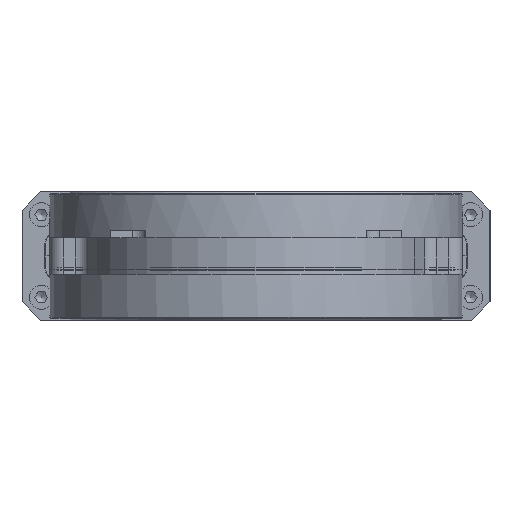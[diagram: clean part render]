
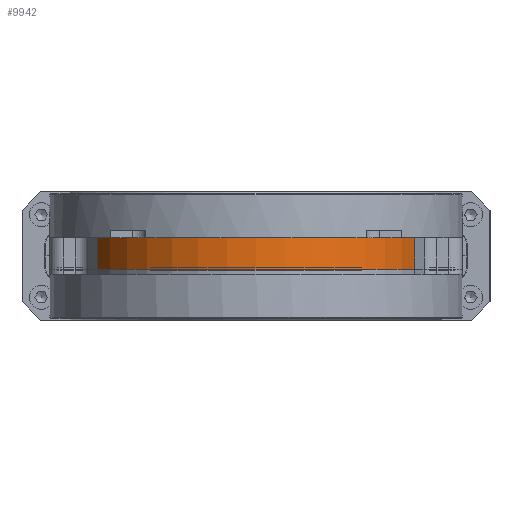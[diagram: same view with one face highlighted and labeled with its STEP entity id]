
A CAD part, front view. The second image highlights one B-rep face of the part: STEP entity #9942.
In plain terms, the highlighted cylindrical face has radius 92 mm (diameter 184 mm), a partial arc.
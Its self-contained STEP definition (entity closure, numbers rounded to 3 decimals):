
#5677=LINE('',#33986,#6897);
#5679=LINE('',#33989,#6899);
#6897=VECTOR('',#27647,1.);
#6899=VECTOR('',#27651,1.);
#9192=FACE_OUTER_BOUND('',#12497,.T.);
#9942=ADVANCED_FACE('',(#9192),#11011,.T.);
#11011=CYLINDRICAL_SURFACE('',#25065,92.);
#12497=EDGE_LOOP('',(#14787,#14788,#14789,#14790));
#14787=ORIENTED_EDGE('',*,*,#21657,.T.);
#14788=ORIENTED_EDGE('',*,*,#21676,.F.);
#14789=ORIENTED_EDGE('',*,*,#21535,.F.);
#14790=ORIENTED_EDGE('',*,*,#21674,.T.);
#19515=VERTEX_POINT('',#33587);
#19516=VERTEX_POINT('',#33589);
#19609=VERTEX_POINT('',#33952);
#19610=VERTEX_POINT('',#33954);
#21535=EDGE_CURVE('',#19515,#19516,#23903,.T.);
#21657=EDGE_CURVE('BCT_REF_77940',#19610,#19609,#23961,.T.);
#21674=EDGE_CURVE('',#19515,#19610,#5677,.T.);
#21676=EDGE_CURVE('',#19516,#19609,#5679,.T.);
#23903=CIRCLE('',#24974,92.);
#23961=CIRCLE('',#25055,92.);
#24974=AXIS2_PLACEMENT_3D('',#33588,#27412,#27413);
#25055=AXIS2_PLACEMENT_3D('',#33953,#27620,#27621);
#25065=AXIS2_PLACEMENT_3D('',#33990,#27652,#27653);
#27412=DIRECTION('',(0.,-1.,0.));
#27413=DIRECTION('',(1.,0.,0.));
#27620=DIRECTION('',(0.,-1.,0.));
#27621=DIRECTION('',(1.,0.,0.));
#27647=DIRECTION('',(0.,1.,0.));
#27651=DIRECTION('',(0.,1.,0.));
#27652=DIRECTION('',(0.,1.,0.));
#27653=DIRECTION('',(0.,0.,1.));
#33587=CARTESIAN_POINT('',(-86.452,-19.2,-31.466));
#33588=CARTESIAN_POINT('',(0.,-19.2,0.));
#33589=CARTESIAN_POINT('',(86.452,-19.2,-31.466));
#33952=CARTESIAN_POINT('',(86.452,-2.,-31.466));
#33953=CARTESIAN_POINT('',(0.,-2.,0.));
#33954=CARTESIAN_POINT('',(-86.452,-2.,-31.466));
#33986=CARTESIAN_POINT('',(-86.452,-19.2,-31.466));
#33989=CARTESIAN_POINT('',(86.452,-19.2,-31.466));
#33990=CARTESIAN_POINT('',(0.,-19.2,0.));
